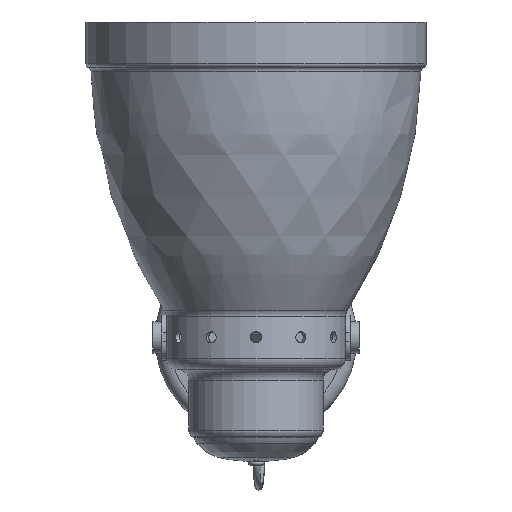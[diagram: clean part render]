
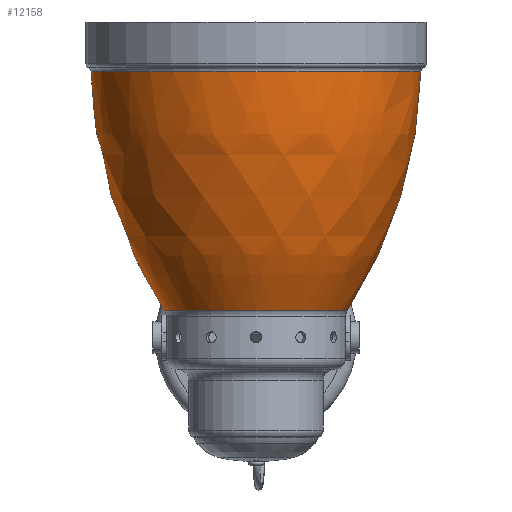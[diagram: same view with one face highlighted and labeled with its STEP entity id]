
A CAD part, top view. The second image highlights one B-rep face of the part: STEP entity #12158.
In plain terms, the highlighted free-form (B-spline) face has degree [2, 2] with [3, 9] control points.
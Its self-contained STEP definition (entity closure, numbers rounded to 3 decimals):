
#1433=(
BOUNDED_SURFACE()
B_SPLINE_SURFACE(2,2,((#20420,#20421,#20422,#20423,#20424,#20425,#20426,
#20427,#20428),(#20429,#20430,#20431,#20432,#20433,#20434,#20435,#20436,
#20437),(#20438,#20439,#20440,#20441,#20442,#20443,#20444,#20445,#20446)),
 .UNSPECIFIED.,.F.,.T.,.F.)
B_SPLINE_SURFACE_WITH_KNOTS((3,3),(3,2,2,2,3),(-0.572,-0.025),
(-3.142,-1.571,0.,1.571,3.142),
 .UNSPECIFIED.)
GEOMETRIC_REPRESENTATION_ITEM()
RATIONAL_B_SPLINE_SURFACE(((1.,0.707,1.,0.707,1.,
0.707,1.,0.707,1.),(0.963,0.681,
0.963,0.681,0.963,0.681,
0.963,0.681,0.963),(1.,0.707,
1.,0.707,1.,0.707,1.,0.707,1.)))
REPRESENTATION_ITEM('')
SURFACE()
);
#1553=CIRCLE('',#13314,40.797);
#1554=CIRCLE('',#13315,40.797);
#1555=CIRCLE('',#13316,73.628);
#1556=CIRCLE('',#13317,73.628);
#1557=CIRCLE('',#13318,206.34);
#2571=FACE_OUTER_BOUND('',#3342,.T.);
#3342=EDGE_LOOP('',(#8686,#8687,#8688,#8689,#8690,#8691));
#5547=VERTEX_POINT('',#20415);
#5548=VERTEX_POINT('',#20417);
#5549=VERTEX_POINT('',#20447);
#5550=VERTEX_POINT('',#20448);
#6703=EDGE_CURVE('',#5548,#5547,#1553,.T.);
#6704=EDGE_CURVE('',#5547,#5548,#1554,.T.);
#6705=EDGE_CURVE('',#5549,#5550,#1555,.T.);
#6706=EDGE_CURVE('',#5550,#5549,#1556,.T.);
#6707=EDGE_CURVE('',#5550,#5547,#1557,.T.);
#8686=ORIENTED_EDGE('',*,*,#6705,.F.);
#8687=ORIENTED_EDGE('',*,*,#6706,.F.);
#8688=ORIENTED_EDGE('',*,*,#6707,.T.);
#8689=ORIENTED_EDGE('',*,*,#6704,.T.);
#8690=ORIENTED_EDGE('',*,*,#6703,.T.);
#8691=ORIENTED_EDGE('',*,*,#6707,.F.);
#12158=ADVANCED_FACE('',(#2571),#1433,.F.);
#13314=AXIS2_PLACEMENT_3D('',#20418,#15220,#15221);
#13315=AXIS2_PLACEMENT_3D('',#20419,#15222,#15223);
#13316=AXIS2_PLACEMENT_3D('',#20449,#15224,#15225);
#13317=AXIS2_PLACEMENT_3D('',#20450,#15226,#15227);
#13318=AXIS2_PLACEMENT_3D('',#20451,#15228,#15229);
#15220=DIRECTION('center_axis',(0.,-1.,0.));
#15221=DIRECTION('ref_axis',(1.,0.,0.));
#15222=DIRECTION('center_axis',(0.,-1.,0.));
#15223=DIRECTION('ref_axis',(1.,0.,0.));
#15224=DIRECTION('center_axis',(0.,-1.,0.));
#15225=DIRECTION('ref_axis',(1.,0.,0.));
#15226=DIRECTION('center_axis',(0.,-1.,0.));
#15227=DIRECTION('ref_axis',(1.,0.,0.));
#15228=DIRECTION('center_axis',(-1.,0.,0.));
#15229=DIRECTION('ref_axis',(0.,0.,1.));
#20415=CARTESIAN_POINT('',(0.,128.773,40.797));
#20417=CARTESIAN_POINT('',(40.797,128.773,0.));
#20418=CARTESIAN_POINT('Origin',(0.,128.773,0.));
#20419=CARTESIAN_POINT('Origin',(0.,128.773,0.));
#20420=CARTESIAN_POINT('Ctrl Pts',(0.,128.773,40.797));
#20421=CARTESIAN_POINT('Ctrl Pts',(-40.797,128.773,40.797));
#20422=CARTESIAN_POINT('Ctrl Pts',(-40.797,128.773,0.));
#20423=CARTESIAN_POINT('Ctrl Pts',(-40.797,128.773,-40.797));
#20424=CARTESIAN_POINT('Ctrl Pts',(0.,128.773,-40.797));
#20425=CARTESIAN_POINT('Ctrl Pts',(40.797,128.773,-40.797));
#20426=CARTESIAN_POINT('Ctrl Pts',(40.797,128.773,0.));
#20427=CARTESIAN_POINT('Ctrl Pts',(40.797,128.773,40.797));
#20428=CARTESIAN_POINT('Ctrl Pts',(0.,128.773,40.797));
#20429=CARTESIAN_POINT('Ctrl Pts',(0.,80.052,72.194));
#20430=CARTESIAN_POINT('Ctrl Pts',(-72.194,80.052,72.194));
#20431=CARTESIAN_POINT('Ctrl Pts',(-72.194,80.052,0.));
#20432=CARTESIAN_POINT('Ctrl Pts',(-72.194,80.052,-72.194));
#20433=CARTESIAN_POINT('Ctrl Pts',(0.,80.052,-72.194));
#20434=CARTESIAN_POINT('Ctrl Pts',(72.194,80.052,-72.194));
#20435=CARTESIAN_POINT('Ctrl Pts',(72.194,80.052,0.));
#20436=CARTESIAN_POINT('Ctrl Pts',(72.194,80.052,72.194));
#20437=CARTESIAN_POINT('Ctrl Pts',(0.,80.052,72.194));
#20438=CARTESIAN_POINT('Ctrl Pts',(0.,22.108,73.628));
#20439=CARTESIAN_POINT('Ctrl Pts',(-73.628,22.108,73.628));
#20440=CARTESIAN_POINT('Ctrl Pts',(-73.628,22.108,0.));
#20441=CARTESIAN_POINT('Ctrl Pts',(-73.628,22.108,-73.628));
#20442=CARTESIAN_POINT('Ctrl Pts',(0.,22.108,-73.628));
#20443=CARTESIAN_POINT('Ctrl Pts',(73.628,22.108,-73.628));
#20444=CARTESIAN_POINT('Ctrl Pts',(73.628,22.108,0.));
#20445=CARTESIAN_POINT('Ctrl Pts',(73.628,22.108,73.628));
#20446=CARTESIAN_POINT('Ctrl Pts',(0.,22.108,73.628));
#20447=CARTESIAN_POINT('',(73.628,22.108,0.));
#20448=CARTESIAN_POINT('',(0.,22.108,73.628));
#20449=CARTESIAN_POINT('Origin',(0.,22.108,0.));
#20450=CARTESIAN_POINT('Origin',(0.,22.108,0.));
#20451=CARTESIAN_POINT('Origin',(0.,17.002,
-132.648));
